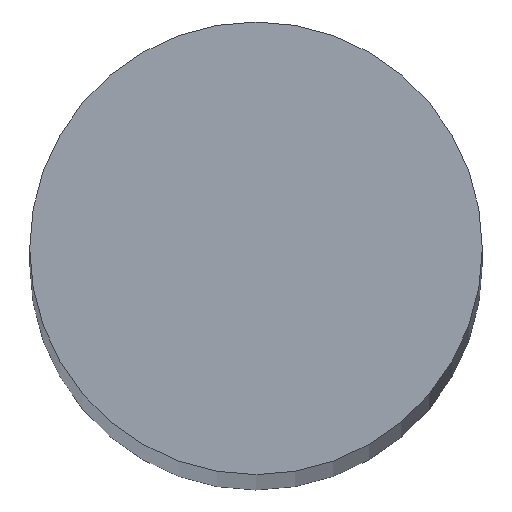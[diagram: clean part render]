
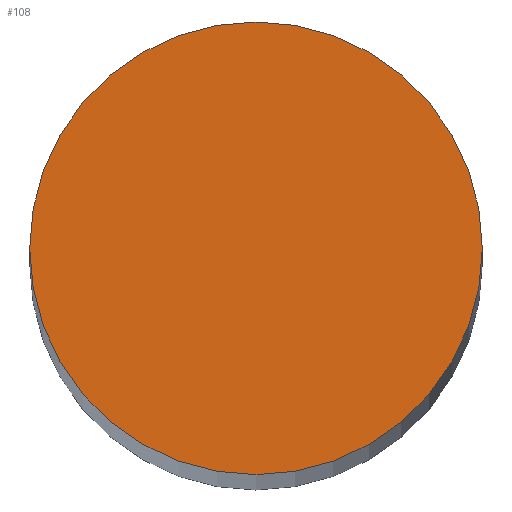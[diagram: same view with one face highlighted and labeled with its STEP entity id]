
A CAD part, top view. The second image highlights one B-rep face of the part: STEP entity #108.
In plain terms, the highlighted planar face has unit normal (0, 0, 1).
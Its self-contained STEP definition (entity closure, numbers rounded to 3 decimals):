
#2 = EDGE_LOOP ( 'NONE', ( #14, #15 ) ) ;
#4 = FACE_OUTER_BOUND ( 'NONE', #2, .T. ) ;
#14 = ORIENTED_EDGE ( 'NONE', *, *, #132, .T. ) ;
#15 = ORIENTED_EDGE ( 'NONE', *, *, #131, .T. ) ;
#30 = CIRCLE ( 'NONE', #128, 6. ) ;
#31 = CIRCLE ( 'NONE', #125, 6. ) ;
#44 = CARTESIAN_POINT ( 'NONE',  ( 0., 0., 116.5 ) ) ;
#45 = VERTEX_POINT ( 'NONE', #47 ) ;
#46 = PLANE ( 'NONE',  #130 ) ;
#47 = CARTESIAN_POINT ( 'NONE',  ( 6., 0., 116.5 ) ) ;
#49 = CARTESIAN_POINT ( 'NONE',  ( -6., 0., 116.5 ) ) ;
#50 = VERTEX_POINT ( 'NONE', #49 ) ;
#57 = DIRECTION ( 'NONE',  ( 0., 0., 1. ) ) ;
#58 = DIRECTION ( 'NONE',  ( 1., 0., 0. ) ) ;
#73 = CARTESIAN_POINT ( 'NONE',  ( 0., 0., 116.5 ) ) ;
#76 = DIRECTION ( 'NONE',  ( 0., 0., 1. ) ) ;
#77 = DIRECTION ( 'NONE',  ( 1., 0., 0. ) ) ;
#78 = CARTESIAN_POINT ( 'NONE',  ( 0., 0., 116.5 ) ) ;
#80 = DIRECTION ( 'NONE',  ( 0., 0., 1. ) ) ;
#81 = DIRECTION ( 'NONE',  ( 1., 0., 0. ) ) ;
#108 = ADVANCED_FACE ( 'NONE', ( #4 ), #46, .T. ) ;
#125 = AXIS2_PLACEMENT_3D ( 'NONE', #78, #80, #81 ) ;
#128 = AXIS2_PLACEMENT_3D ( 'NONE', #73, #76, #77 ) ;
#130 = AXIS2_PLACEMENT_3D ( 'NONE', #44, #57, #58 ) ;
#131 = EDGE_CURVE ( 'NONE', #45, #50, #30, .T. ) ;
#132 = EDGE_CURVE ( 'NONE', #50, #45, #31, .T. ) ;
